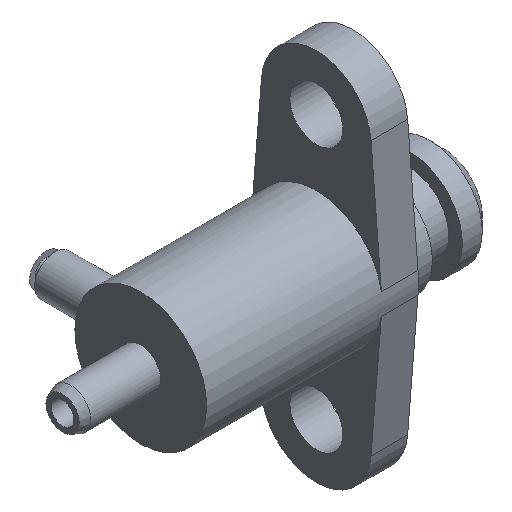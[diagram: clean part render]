
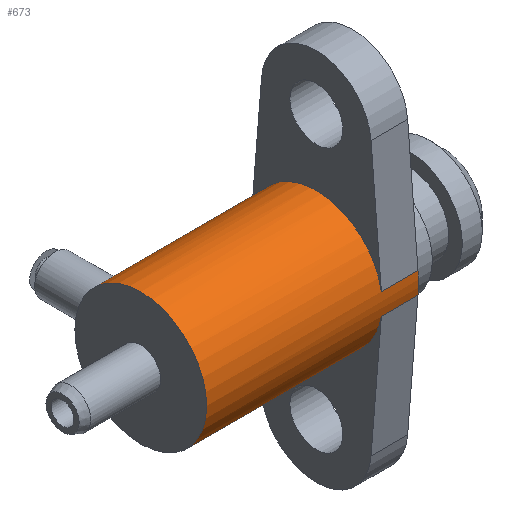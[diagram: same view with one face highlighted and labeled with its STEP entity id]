
A CAD part, isometric view. The second image highlights one B-rep face of the part: STEP entity #673.
In plain terms, the highlighted cylindrical face has radius 3.96 mm (diameter 7.92 mm), a full revolution.
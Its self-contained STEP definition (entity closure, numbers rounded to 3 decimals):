
#13=B_SPLINE_CURVE_WITH_KNOTS('',3,(#1173,#1174,#1175,#1176,#1177,#1178,
#1179,#1180,#1181,#1182,#1183,#1184,#1185,#1186,#1187,#1188,#1189,#1190,
#1191),.UNSPECIFIED.,.F.,.F.,(4,2,2,2,3,2,2,2,4),(0.544,0.589,
0.634,0.68,0.725,0.77,
0.816,0.861,0.906),.UNSPECIFIED.);
#14=B_SPLINE_CURVE_WITH_KNOTS('',3,(#1192,#1193,#1194,#1195,#1196,#1197,
#1198,#1199,#1200,#1201,#1202,#1203,#1204,#1205,#1206,#1207,#1208,#1209),
 .UNSPECIFIED.,.F.,.F.,(4,2,2,2,2,2,2,2,4),(0.181,0.227,
0.272,0.317,0.363,0.408,
0.453,0.499,0.544),.UNSPECIFIED.);
#20=FACE_BOUND('',#117,.T.);
#56=CYLINDRICAL_SURFACE('',#777,3.96);
#80=FACE_OUTER_BOUND('',#116,.T.);
#116=EDGE_LOOP('',(#567,#568,#569,#570,#571,#572,#573,#574,#575,#576,#577,
#578,#579));
#117=EDGE_LOOP('',(#580,#581));
#157=LINE('',#1225,#192);
#158=LINE('',#1229,#193);
#159=LINE('',#1233,#194);
#160=LINE('',#1237,#195);
#161=LINE('',#1243,#196);
#192=VECTOR('',#964,2.2);
#193=VECTOR('',#967,2.2);
#194=VECTOR('',#970,2.2);
#195=VECTOR('',#973,3.96);
#196=VECTOR('',#980,2.2);
#261=CIRCLE('',#778,3.96);
#262=CIRCLE('',#779,3.96);
#263=CIRCLE('',#780,3.96);
#264=CIRCLE('',#781,3.96);
#265=CIRCLE('',#782,3.96);
#266=CIRCLE('',#783,3.96);
#267=CIRCLE('',#784,3.96);
#322=VERTEX_POINT('',#1170);
#323=VERTEX_POINT('',#1172);
#328=VERTEX_POINT('',#1221);
#329=VERTEX_POINT('',#1222);
#330=VERTEX_POINT('',#1224);
#331=VERTEX_POINT('',#1226);
#332=VERTEX_POINT('',#1228);
#333=VERTEX_POINT('',#1230);
#334=VERTEX_POINT('',#1232);
#335=VERTEX_POINT('',#1234);
#336=VERTEX_POINT('',#1236);
#337=VERTEX_POINT('',#1238);
#338=VERTEX_POINT('',#1241);
#412=EDGE_CURVE('',#322,#323,#13,.T.);
#413=EDGE_CURVE('',#323,#322,#14,.T.);
#419=EDGE_CURVE('',#328,#329,#261,.T.);
#420=EDGE_CURVE('',#330,#329,#157,.T.);
#421=EDGE_CURVE('',#330,#331,#262,.T.);
#422=EDGE_CURVE('',#332,#331,#158,.T.);
#423=EDGE_CURVE('',#332,#333,#263,.T.);
#424=EDGE_CURVE('',#334,#333,#159,.T.);
#425=EDGE_CURVE('',#334,#335,#264,.T.);
#426=EDGE_CURVE('',#335,#336,#160,.T.);
#427=EDGE_CURVE('',#337,#336,#265,.T.);
#428=EDGE_CURVE('',#336,#337,#266,.T.);
#429=EDGE_CURVE('',#335,#338,#267,.T.);
#430=EDGE_CURVE('',#328,#338,#161,.T.);
#567=ORIENTED_EDGE('',*,*,#419,.T.);
#568=ORIENTED_EDGE('',*,*,#420,.F.);
#569=ORIENTED_EDGE('',*,*,#421,.T.);
#570=ORIENTED_EDGE('',*,*,#422,.F.);
#571=ORIENTED_EDGE('',*,*,#423,.T.);
#572=ORIENTED_EDGE('',*,*,#424,.F.);
#573=ORIENTED_EDGE('',*,*,#425,.T.);
#574=ORIENTED_EDGE('',*,*,#426,.T.);
#575=ORIENTED_EDGE('',*,*,#427,.F.);
#576=ORIENTED_EDGE('',*,*,#428,.F.);
#577=ORIENTED_EDGE('',*,*,#426,.F.);
#578=ORIENTED_EDGE('',*,*,#429,.T.);
#579=ORIENTED_EDGE('',*,*,#430,.F.);
#580=ORIENTED_EDGE('',*,*,#413,.F.);
#581=ORIENTED_EDGE('',*,*,#412,.F.);
#673=ADVANCED_FACE('',(#80,#20),#56,.T.);
#777=AXIS2_PLACEMENT_3D('',#1220,#960,#961);
#778=AXIS2_PLACEMENT_3D('',#1223,#962,#963);
#779=AXIS2_PLACEMENT_3D('',#1227,#965,#966);
#780=AXIS2_PLACEMENT_3D('',#1231,#968,#969);
#781=AXIS2_PLACEMENT_3D('',#1235,#971,#972);
#782=AXIS2_PLACEMENT_3D('',#1239,#974,#975);
#783=AXIS2_PLACEMENT_3D('',#1240,#976,#977);
#784=AXIS2_PLACEMENT_3D('',#1242,#978,#979);
#960=DIRECTION('center_axis',(1.,0.,0.));
#961=DIRECTION('ref_axis',(0.,0.,1.));
#962=DIRECTION('center_axis',(-1.,0.,0.));
#963=DIRECTION('ref_axis',(0.,-1.,0.));
#964=DIRECTION('',(1.,0.,0.));
#965=DIRECTION('center_axis',(-1.,0.,0.));
#966=DIRECTION('ref_axis',(0.,-0.987,0.162));
#967=DIRECTION('',(-1.,0.,0.));
#968=DIRECTION('center_axis',(-1.,0.,0.));
#969=DIRECTION('ref_axis',(0.,0.987,0.162));
#970=DIRECTION('',(1.,0.,0.));
#971=DIRECTION('center_axis',(-1.,0.,0.));
#972=DIRECTION('ref_axis',(0.,0.987,-0.162));
#973=DIRECTION('',(-1.,0.,0.));
#974=DIRECTION('center_axis',(-1.,0.,0.));
#975=DIRECTION('ref_axis',(0.,-1.,0.));
#976=DIRECTION('center_axis',(-1.,0.,0.));
#977=DIRECTION('ref_axis',(0.,-1.,0.));
#978=DIRECTION('center_axis',(-1.,0.,0.));
#979=DIRECTION('ref_axis',(0.,0.987,-0.162));
#980=DIRECTION('',(-1.,0.,0.));
#1170=CARTESIAN_POINT('',(-5.32,3.96,0.));
#1172=CARTESIAN_POINT('',(-2.93,3.96,0.));
#1173=CARTESIAN_POINT('Ctrl Pts',(-5.32,3.96,0.));
#1174=CARTESIAN_POINT('Ctrl Pts',(-5.32,3.96,0.151));
#1175=CARTESIAN_POINT('Ctrl Pts',(-5.29,3.951,0.312));
#1176=CARTESIAN_POINT('Ctrl Pts',(-5.167,3.916,0.606));
#1177=CARTESIAN_POINT('Ctrl Pts',(-5.076,3.892,0.739));
#1178=CARTESIAN_POINT('Ctrl Pts',(-4.864,3.846,0.951));
#1179=CARTESIAN_POINT('Ctrl Pts',(-4.731,3.821,1.042));
#1180=CARTESIAN_POINT('Ctrl Pts',(-4.437,3.785,1.165));
#1181=CARTESIAN_POINT('Ctrl Pts',(-4.276,3.775,1.195));
#1182=CARTESIAN_POINT('Ctrl Pts',(-4.125,3.775,1.195));
#1183=CARTESIAN_POINT('Ctrl Pts',(-3.974,3.775,1.195));
#1184=CARTESIAN_POINT('Ctrl Pts',(-3.813,3.785,1.165));
#1185=CARTESIAN_POINT('Ctrl Pts',(-3.519,3.821,1.042));
#1186=CARTESIAN_POINT('Ctrl Pts',(-3.386,3.846,0.951));
#1187=CARTESIAN_POINT('Ctrl Pts',(-3.174,3.892,0.739));
#1188=CARTESIAN_POINT('Ctrl Pts',(-3.083,3.916,0.606));
#1189=CARTESIAN_POINT('Ctrl Pts',(-2.96,3.951,0.312));
#1190=CARTESIAN_POINT('Ctrl Pts',(-2.93,3.96,0.151));
#1191=CARTESIAN_POINT('Ctrl Pts',(-2.93,3.96,0.));
#1192=CARTESIAN_POINT('Ctrl Pts',(-2.93,3.96,0.));
#1193=CARTESIAN_POINT('Ctrl Pts',(-2.93,3.96,-0.151));
#1194=CARTESIAN_POINT('Ctrl Pts',(-2.96,3.951,-0.312));
#1195=CARTESIAN_POINT('Ctrl Pts',(-3.083,3.916,-0.606));
#1196=CARTESIAN_POINT('Ctrl Pts',(-3.174,3.892,-0.739));
#1197=CARTESIAN_POINT('Ctrl Pts',(-3.386,3.846,-0.951));
#1198=CARTESIAN_POINT('Ctrl Pts',(-3.519,3.821,-1.042));
#1199=CARTESIAN_POINT('Ctrl Pts',(-3.813,3.785,-1.165));
#1200=CARTESIAN_POINT('Ctrl Pts',(-3.974,3.775,-1.195));
#1201=CARTESIAN_POINT('Ctrl Pts',(-4.276,3.775,-1.195));
#1202=CARTESIAN_POINT('Ctrl Pts',(-4.437,3.785,-1.165));
#1203=CARTESIAN_POINT('Ctrl Pts',(-4.731,3.821,-1.042));
#1204=CARTESIAN_POINT('Ctrl Pts',(-4.864,3.846,-0.951));
#1205=CARTESIAN_POINT('Ctrl Pts',(-5.076,3.892,-0.739));
#1206=CARTESIAN_POINT('Ctrl Pts',(-5.167,3.916,-0.606));
#1207=CARTESIAN_POINT('Ctrl Pts',(-5.29,3.951,-0.312));
#1208=CARTESIAN_POINT('Ctrl Pts',(-5.32,3.96,-0.151));
#1209=CARTESIAN_POINT('Ctrl Pts',(-5.32,3.96,0.));
#1220=CARTESIAN_POINT('Origin',(6.375,0.,0.));
#1221=CARTESIAN_POINT('',(6.375,-3.907,-0.643));
#1222=CARTESIAN_POINT('',(6.375,-3.907,0.643));
#1223=CARTESIAN_POINT('Origin',(6.375,0.,0.));
#1224=CARTESIAN_POINT('',(4.175,-3.907,0.643));
#1225=CARTESIAN_POINT('',(4.175,-3.907,0.643));
#1226=CARTESIAN_POINT('',(4.175,3.907,0.643));
#1227=CARTESIAN_POINT('Origin',(4.175,0.,0.));
#1228=CARTESIAN_POINT('',(6.375,3.907,0.643));
#1229=CARTESIAN_POINT('',(6.375,3.907,0.643));
#1230=CARTESIAN_POINT('',(6.375,3.907,-0.643));
#1231=CARTESIAN_POINT('Origin',(6.375,0.,0.));
#1232=CARTESIAN_POINT('',(4.175,3.907,-0.643));
#1233=CARTESIAN_POINT('',(4.175,3.907,-0.643));
#1234=CARTESIAN_POINT('',(4.175,0.,-3.96));
#1235=CARTESIAN_POINT('Origin',(4.175,0.,0.));
#1236=CARTESIAN_POINT('',(-6.375,0.,-3.96));
#1237=CARTESIAN_POINT('',(6.375,0.,-3.96));
#1238=CARTESIAN_POINT('',(-6.375,-3.96,0.));
#1239=CARTESIAN_POINT('Origin',(-6.375,0.,0.));
#1240=CARTESIAN_POINT('Origin',(-6.375,0.,0.));
#1241=CARTESIAN_POINT('',(4.175,-3.907,-0.643));
#1242=CARTESIAN_POINT('Origin',(4.175,0.,0.));
#1243=CARTESIAN_POINT('',(6.375,-3.907,-0.643));
